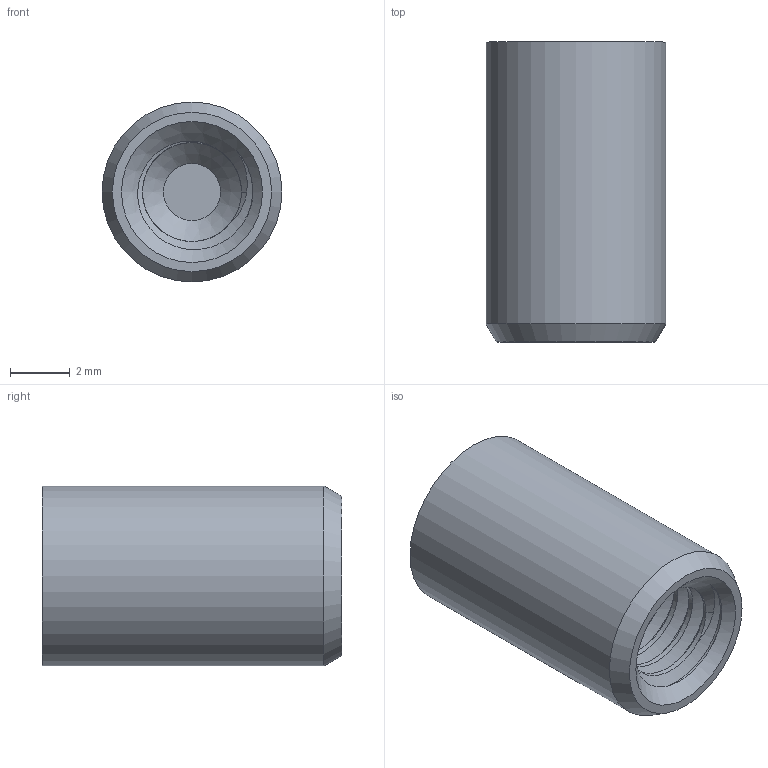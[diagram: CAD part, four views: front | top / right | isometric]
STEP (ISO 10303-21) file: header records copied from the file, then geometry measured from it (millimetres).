
FILE_DESCRIPTION (( 'STEP AP214' ), '1' );
FILE_NAME ('PET-6.STEP', '2018-10-09T18:03:06', ( '' ), ( '' ), 'SwSTEP 2.0', 'SolidWorks 2017', '' );
FILE_SCHEMA (( 'AUTOMOTIVE_DESIGN' ));
Length unit declared in the file: millimetre
Products named in the file (1): PET-6
Bounding box: 6 x 10 x 6 mm (x, y, z)
Volume: 200.7 mm3; surface area: 363.8 mm2
Topology: 1 solids, 1 shells, 111 faces, 301 edges, 200 vertices
Faces by surface type: plane 72, bspline 25, cylinder 10, cone 4
Full cylindrical faces by diameter (mm): 3.3 x8, 6 x1
Entity records: 4737 total; most frequent: CARTESIAN_POINT 2397, ORIENTED_EDGE 534, DIRECTION 356, EDGE_CURVE 267, VECTOR 186, LINE 186, VERTEX_POINT 180, EDGE_LOOP 115
